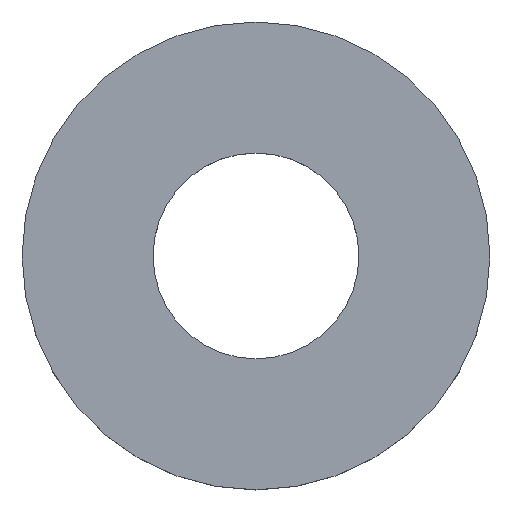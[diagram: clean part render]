
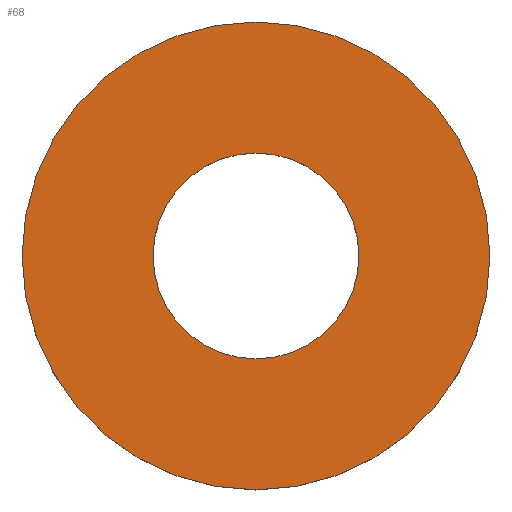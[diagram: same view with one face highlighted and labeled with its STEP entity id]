
A CAD part, top view. The second image highlights one B-rep face of the part: STEP entity #68.
In plain terms, the highlighted planar face has unit normal (0, 0, 1).
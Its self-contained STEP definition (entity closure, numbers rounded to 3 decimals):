
#39 = EDGE_CURVE('',#40,#40,#42,.T.);
#40 = VERTEX_POINT('',#41);
#41 = CARTESIAN_POINT('',(2.5,0.,0.7));
#42 = CIRCLE('',#43,2.5);
#43 = AXIS2_PLACEMENT_3D('',#44,#45,#46);
#44 = CARTESIAN_POINT('',(0.,0.,0.7));
#45 = DIRECTION('',(0.,0.,1.));
#46 = DIRECTION('',(1.,0.,-0.));
#68 = ADVANCED_FACE('',(#69,#72),#83,.T.);
#69 = FACE_BOUND('',#70,.T.);
#70 = EDGE_LOOP('',(#71));
#71 = ORIENTED_EDGE('',*,*,#39,.T.);
#72 = FACE_BOUND('',#73,.T.);
#73 = EDGE_LOOP('',(#74));
#74 = ORIENTED_EDGE('',*,*,#75,.F.);
#75 = EDGE_CURVE('',#76,#76,#78,.T.);
#76 = VERTEX_POINT('',#77);
#77 = CARTESIAN_POINT('',(1.1,0.,0.7));
#78 = CIRCLE('',#79,1.1);
#79 = AXIS2_PLACEMENT_3D('',#80,#81,#82);
#80 = CARTESIAN_POINT('',(0.,0.,0.7));
#81 = DIRECTION('',(0.,0.,1.));
#82 = DIRECTION('',(1.,0.,-0.));
#83 = PLANE('',#84);
#84 = AXIS2_PLACEMENT_3D('',#85,#86,#87);
#85 = CARTESIAN_POINT('',(0.,0.,0.7));
#86 = DIRECTION('',(0.,0.,1.));
#87 = DIRECTION('',(1.,0.,-0.));
